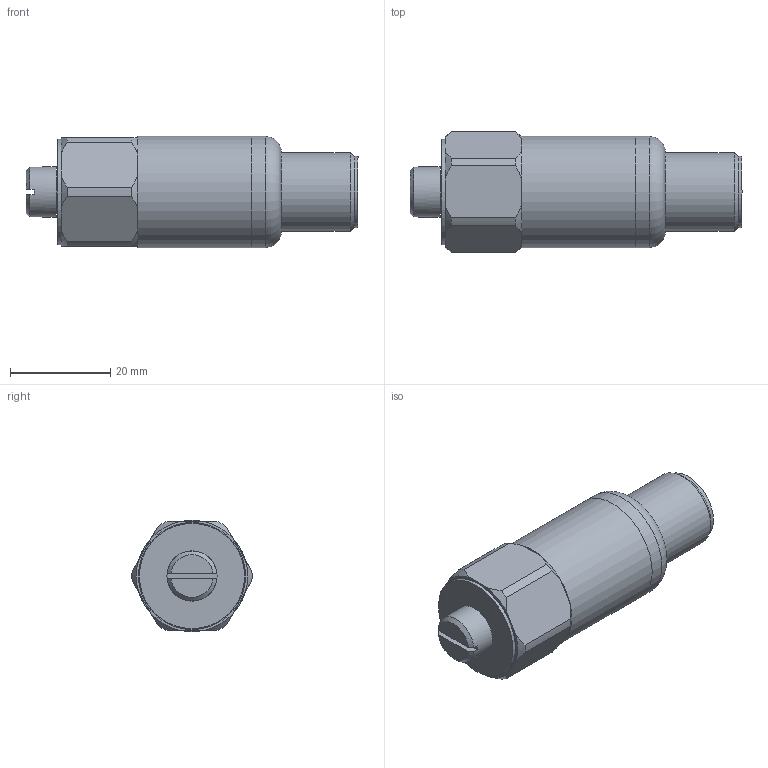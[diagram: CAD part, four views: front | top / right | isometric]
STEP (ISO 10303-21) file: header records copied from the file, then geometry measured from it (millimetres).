
FILE_DESCRIPTION(/* description */ (''),/* implementation_level */ '2;1');
FILE_NAME(/* name */ 'Z:\Engineering\Drawings\3D Library\Assemblies\Website\Premium Top\HS-150 Top 2 Pin MS\HS-150XXX5010.stp',/* time_stamp */ '2023-03-12T10:59:35+00:00',/* author */ ('Ricardo.Peneda'),/* organization */ (''),/* preprocessor_version */ 'ST-DEVELOPER v18.1',/* originating_system */ 'Autodesk Inventor 2021',/* authorisation */ '');
FILE_SCHEMA (('AUTOMOTIVE_DESIGN { 1 0 10303 214 3 1 1 }'));
Length unit declared in the file: inch
Products named in the file (1): HS-150XXX5010_Shrinkwrap_1
Bounding box: 66.27 x 23.99 x 22.2 mm (x, y, z)
Volume: 14658 mm3; surface area: 7822.3 mm2
Topology: 3 solids, 3 shells, 74 faces, 195 edges, 138 vertices
Faces by surface type: plane 37, cylinder 22, cone 14, torus 1
Full cylindrical faces by diameter (mm): 5 x1, 5.359 x1, 6.35 x1, 7 x1, 7.5 x1, 8.5 x1, 10 x1, 11.37 x1, 14.28 x1, 15.055 x1, 15.7 x1, 19 x1, 20 x1, 21 x1, 22.2 x2
Entity records: 2451 total; most frequent: CARTESIAN_POINT 471, DIRECTION 414, ORIENTED_EDGE 388, EDGE_CURVE 194, AXIS2_PLACEMENT_3D 177, VERTEX_POINT 138, CIRCLE 102, EDGE_LOOP 86
